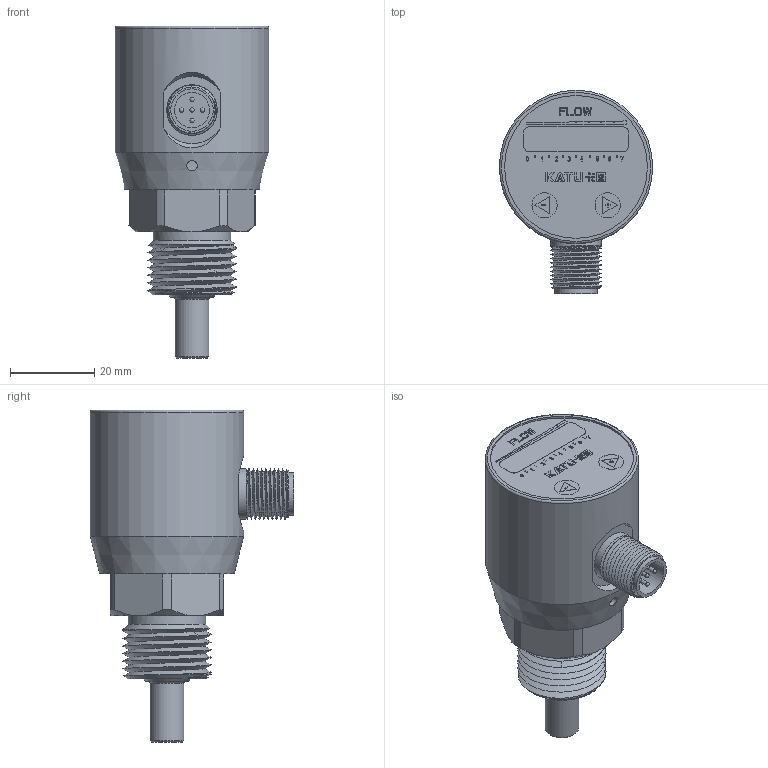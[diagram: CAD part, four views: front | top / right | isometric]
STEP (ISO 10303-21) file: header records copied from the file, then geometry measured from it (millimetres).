
FILE_DESCRIPTION( (''), '2;1');
FILE_NAME( 'QSKD_G1-2_L30.step', '2024-04-26T10:27:53+08:00', (''), (''), '', '', '');
FILE_SCHEMA (('AUTOMOTIVE_DESIGN { 1 0 10303 214 3 1 1 1 }'));
Length unit declared in the file: millimetre
Products named in the file (1): QSKD G1-2_L30
Bounding box: 36.5 x 48.4 x 79 mm (x, y, z)
Volume: 40471.6 mm3; surface area: 17868.3 mm2
Topology: 5 solids, 5 shells, 698 faces, 1855 edges, 1228 vertices
Faces by surface type: plane 584, cylinder 65, cone 19, bspline 18, sphere 11, torus 1
Full cylindrical faces by diameter (mm): 1 x10, 2.5 x1, 6 x2, 7.2 x1, 7.5 x1, 8 x1, 8.4 x1, 9 x2, 9.7 x1, 9.8 x1, 10.1 x1, 11 x1, 11.6 x2, 12 x1, 18 x1, 18.4 x1, 23 x3, 26.1 x5, 34 x1, 36.5 x1
Entity records: 23192 total; most frequent: CARTESIAN_POINT 6409, ORIENTED_EDGE 3474, DIRECTION 3164, EDGE_CURVE 1737, LINE 1530, VECTOR 1530, VERTEX_POINT 1182, EDGE_LOOP 833
